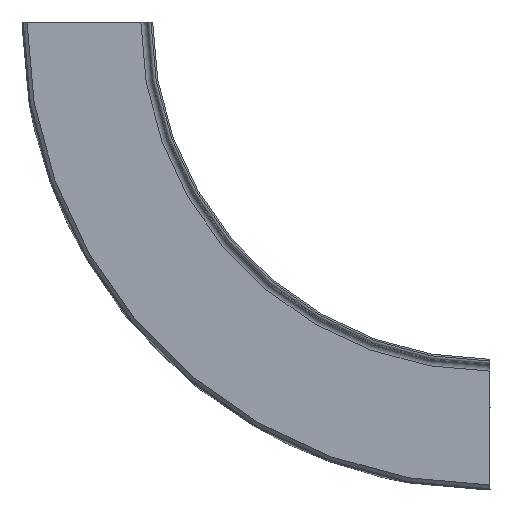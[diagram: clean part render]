
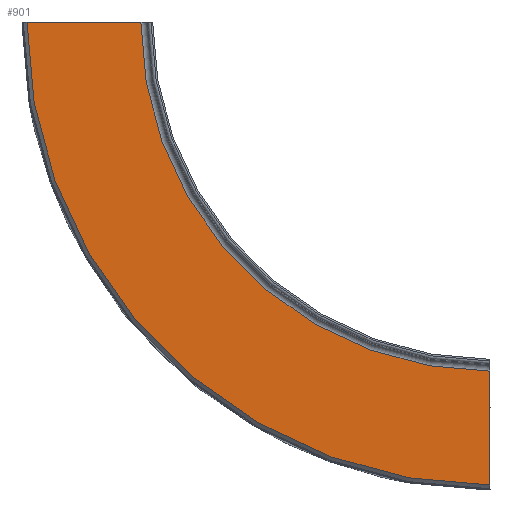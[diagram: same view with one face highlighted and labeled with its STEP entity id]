
A CAD part, left-side view. The second image highlights one B-rep face of the part: STEP entity #901.
In plain terms, the highlighted planar face has unit normal (-1, 0, 0).
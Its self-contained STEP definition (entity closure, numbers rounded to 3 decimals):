
#26=PLANE('',#1006);
#129=LINE('',#1972,#181);
#133=LINE('',#2010,#185);
#181=VECTOR('',#1215,10.);
#185=VECTOR('',#1241,10.);
#248=FACE_OUTER_BOUND('',#314,.T.);
#314=EDGE_LOOP('',(#830,#831,#832,#833));
#324=CIRCLE('',#928,137.25);
#328=CIRCLE('',#933,103.5);
#388=VERTEX_POINT('',#1532);
#391=VERTEX_POINT('',#1537);
#392=VERTEX_POINT('',#1541);
#395=VERTEX_POINT('',#1546);
#484=EDGE_CURVE('',#391,#388,#324,.T.);
#488=EDGE_CURVE('',#395,#392,#328,.T.);
#579=EDGE_CURVE('',#391,#392,#129,.T.);
#589=EDGE_CURVE('',#388,#395,#133,.T.);
#830=ORIENTED_EDGE('',*,*,#488,.F.);
#831=ORIENTED_EDGE('',*,*,#589,.F.);
#832=ORIENTED_EDGE('',*,*,#484,.F.);
#833=ORIENTED_EDGE('',*,*,#579,.T.);
#901=ADVANCED_FACE('',(#248),#26,.T.);
#928=AXIS2_PLACEMENT_3D('',#1539,#1036,#1037);
#933=AXIS2_PLACEMENT_3D('',#1548,#1046,#1047);
#1006=AXIS2_PLACEMENT_3D('',#2009,#1239,#1240);
#1036=DIRECTION('center_axis',(1.,0.,0.));
#1037=DIRECTION('ref_axis',(0.,0.,-1.));
#1046=DIRECTION('center_axis',(-1.,0.,0.));
#1047=DIRECTION('ref_axis',(0.,0.707,-0.707));
#1215=DIRECTION('',(0.,0.,1.));
#1239=DIRECTION('center_axis',(-1.,0.,0.));
#1240=DIRECTION('ref_axis',(0.,0.,1.));
#1241=DIRECTION('',(0.,-1.,0.));
#1532=CARTESIAN_POINT('',(3627.237,137.25,-1986.193));
#1537=CARTESIAN_POINT('',(3627.237,0.,-2123.443));
#1539=CARTESIAN_POINT('Origin',(3627.237,0.,
-1986.193));
#1541=CARTESIAN_POINT('',(3627.237,0.,-2089.693));
#1546=CARTESIAN_POINT('',(3627.237,103.5,-1986.193));
#1548=CARTESIAN_POINT('Origin',(3627.237,0.,-1986.193));
#1972=CARTESIAN_POINT('',(3627.237,0.,-2123.443));
#2009=CARTESIAN_POINT('Origin',(3627.237,0.,-2123.443));
#2010=CARTESIAN_POINT('',(3627.237,137.25,-1986.193));
